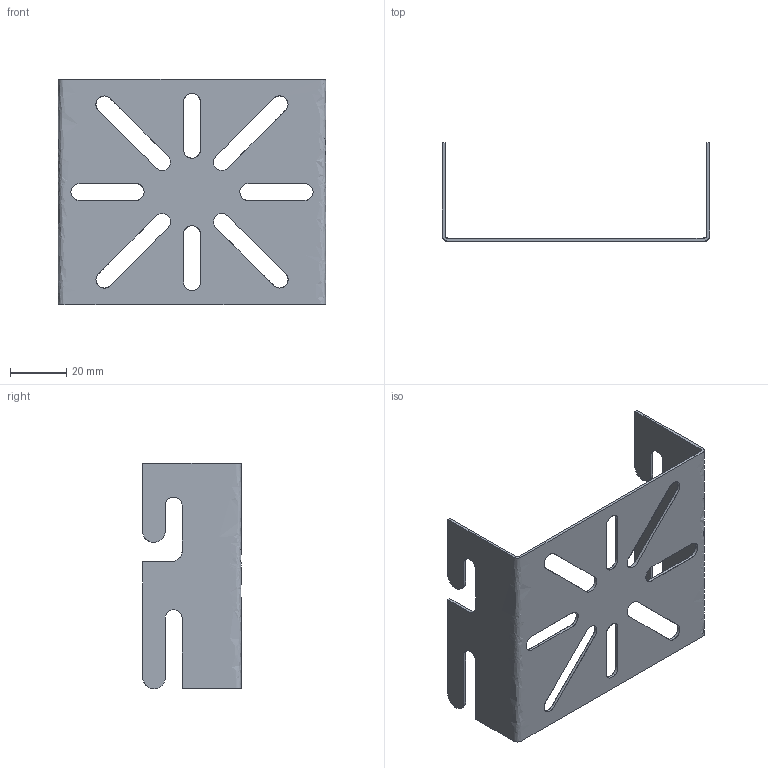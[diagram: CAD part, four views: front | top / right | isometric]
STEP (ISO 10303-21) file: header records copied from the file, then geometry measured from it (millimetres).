
FILE_DESCRIPTION(/* description */ (''),/* implementation_level */ '2;1');
FILE_NAME(/* name */ 'DZM01',/* time_stamp */ '2012-11-29T22:39:34+01:00',/* author */ (''),/* organization */ (''),/* preprocessor_version */ 'ST-DEVELOPER v10',/* originating_system */ '',/* authorisation */ '');
FILE_SCHEMA (('AUTOMOTIVE_DESIGN_CC2'));
Length unit declared in the file: millimetre
Products named in the file (1): 1
Bounding box: 95 x 35 x 80 mm (x, y, z)
Surface area: 22820.4 mm2 (no closed solid volume)
Topology: 0 solids, 26 shells, 34 faces, 168 edges, 152 vertices
Faces by surface type: bspline 26, plane 8
Entity records: 3500 total; most frequent: CARTESIAN_POINT 2436, ORIENTED_EDGE 184, EDGE_CURVE 168, VERTEX_POINT 152, B_SPLINE_CURVE_WITH_KNOTS 106, EDGE_LOOP 50, ADVANCED_FACE 34, FACE_OUTER_BOUND 34
